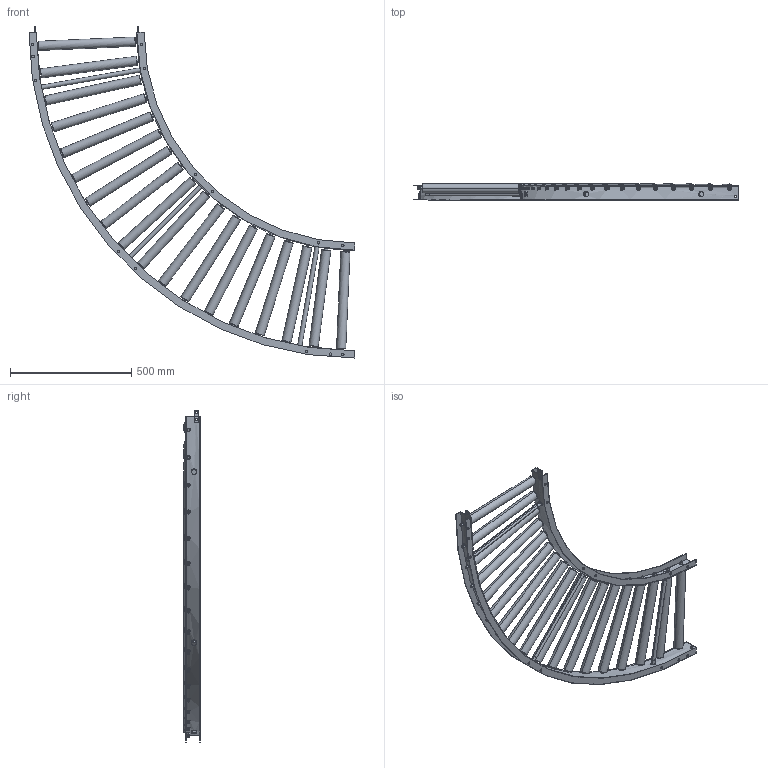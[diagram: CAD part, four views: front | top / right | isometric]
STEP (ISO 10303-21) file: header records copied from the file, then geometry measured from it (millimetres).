
FILE_DESCRIPTION (( 'STEP AP203' ), '1' );
FILE_NAME ('RB-3823_C.step', '2024-03-15T02:37:05', ( '' ), ( '' ), 'SwSTEP 2.0', 'SolidWorks 2023', '' );
FILE_SCHEMA (( 'CONFIG_CONTROL_DESIGN' ));
Length unit declared in the file: millimetre
Products named in the file (1): RB-3823_C
Bounding box: 1345 x 67.05 x 1370.08 mm (x, y, z)
Volume: 8810245.4 mm3; surface area: 2673615.1 mm2
Topology: 55 solids, 55 shells, 820 faces, 1896 edges, 1228 vertices
Faces by surface type: cylinder 406, plane 306, torus 72, cone 36
Entity records: 30605 total; most frequent: CARTESIAN_POINT 11349, DIRECTION 4102, ORIENTED_EDGE 3792, EDGE_CURVE 1896, AXIS2_PLACEMENT_3D 1701, VERTEX_POINT 1228, EDGE_LOOP 1068, CIRCLE 880
